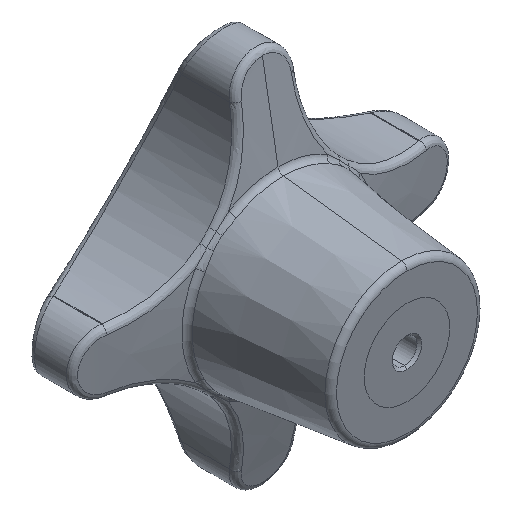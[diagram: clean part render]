
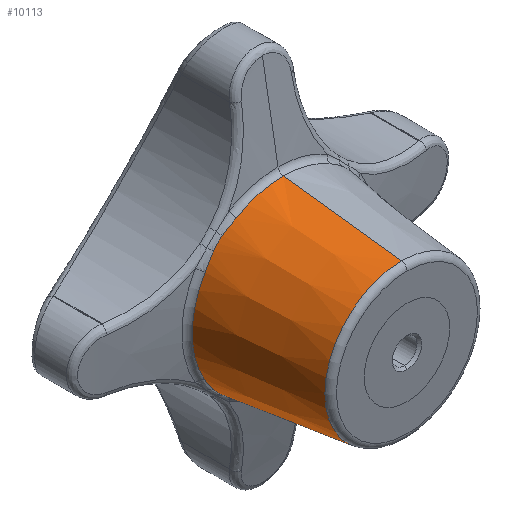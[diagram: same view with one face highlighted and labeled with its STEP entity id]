
A CAD part, isometric view. The second image highlights one B-rep face of the part: STEP entity #10113.
In plain terms, the highlighted conical face has half-angle 7 degrees and reference radius 16 mm.
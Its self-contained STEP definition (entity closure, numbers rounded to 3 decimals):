
#279 = DIRECTION ( 'NONE',  ( 0., 0.993, 0.122 ) ) ;
#280 = VECTOR ( 'NONE', #279, 1000. ) ;
#283 = LINE ( 'NONE', #287, #280 ) ;
#287 = CARTESIAN_POINT ( 'NONE',  ( 0., 0., 16. ) ) ;
#1560 = EDGE_CURVE ( 'NONE', #10138, #1565, #3802, .T. ) ;
#1561 = VERTEX_POINT ( 'NONE', #3727 ) ;
#1563 = VERTEX_POINT ( 'NONE', #3793 ) ;
#1565 = VERTEX_POINT ( 'NONE', #3867 ) ;
#1566 = ORIENTED_EDGE ( 'NONE', *, *, #1569, .T. ) ;
#1568 = ORIENTED_EDGE ( 'NONE', *, *, #1570, .T. ) ;
#1569 = EDGE_CURVE ( 'NONE', #1563, #1561, #3858, .T. ) ;
#1570 = EDGE_CURVE ( 'NONE', #1565, #1563, #3852, .T. ) ;
#1572 = ORIENTED_EDGE ( 'NONE', *, *, #1573, .T. ) ;
#1573 = EDGE_CURVE ( 'NONE', #1561, #7373, #3861, .T. ) ;
#3727 = CARTESIAN_POINT ( 'NONE',  ( -9.847, 26.045, -16.48 ) ) ;
#3793 = CARTESIAN_POINT ( 'NONE',  ( -12.635, 26.268, -14.491 ) ) ;
#3800 = CARTESIAN_POINT ( 'NONE',  ( -16.48, 26.045, -9.847 ) ) ;
#3802 = B_SPLINE_CURVE_WITH_KNOTS ( 'NONE', 3,
 ( #3800, #3870, #3869, #3868 ),
 .UNSPECIFIED., .F., .F.,
 ( 4, 4 ),
 ( 0., 0.003 ),
 .UNSPECIFIED. ) ;
#3843 = DIRECTION ( 'NONE',  ( 0., 0., 1. ) ) ;
#3844 = DIRECTION ( 'NONE',  ( 0., -1., 0. ) ) ;
#3845 = AXIS2_PLACEMENT_3D ( 'NONE', #3862, #3844, #3843 ) ;
#3847 = CARTESIAN_POINT ( 'NONE',  ( -12.635, 26.268, -14.491 ) ) ;
#3848 = CARTESIAN_POINT ( 'NONE',  ( -13.301, 26.326, -13.919 ) ) ;
#3849 = CARTESIAN_POINT ( 'NONE',  ( -13.919, 26.326, -13.301 ) ) ;
#3850 = CARTESIAN_POINT ( 'NONE',  ( -14.491, 26.268, -12.635 ) ) ;
#3852 = B_SPLINE_CURVE_WITH_KNOTS ( 'NONE', 3,
 ( #3850, #3849, #3848, #3847 ),
 .UNSPECIFIED., .F., .F.,
 ( 4, 4 ),
 ( 0., 0.003 ),
 .UNSPECIFIED. ) ;
#3854 = CARTESIAN_POINT ( 'NONE',  ( -9.847, 26.045, -16.48 ) ) ;
#3855 = CARTESIAN_POINT ( 'NONE',  ( -10.834, 26.045, -15.89 ) ) ;
#3856 = CARTESIAN_POINT ( 'NONE',  ( -11.765, 26.193, -15.237 ) ) ;
#3857 = CARTESIAN_POINT ( 'NONE',  ( -12.635, 26.268, -14.491 ) ) ;
#3858 = B_SPLINE_CURVE_WITH_KNOTS ( 'NONE', 3,
 ( #3857, #3856, #3855, #3854 ),
 .UNSPECIFIED., .F., .F.,
 ( 4, 4 ),
 ( 0., 0.003 ),
 .UNSPECIFIED. ) ;
#3861 = CIRCLE ( 'NONE', #3845, 19.198 ) ;
#3862 = CARTESIAN_POINT ( 'NONE',  ( 0., 26.045, 0. ) ) ;
#3867 = CARTESIAN_POINT ( 'NONE',  ( -14.491, 26.268, -12.635 ) ) ;
#3868 = CARTESIAN_POINT ( 'NONE',  ( -14.491, 26.268, -12.635 ) ) ;
#3869 = CARTESIAN_POINT ( 'NONE',  ( -15.237, 26.193, -11.765 ) ) ;
#3870 = CARTESIAN_POINT ( 'NONE',  ( -15.89, 26.045, -10.834 ) ) ;
#6945 = VERTEX_POINT ( 'NONE', #11635 ) ;
#6982 = VERTEX_POINT ( 'NONE', #11650 ) ;
#7002 = VERTEX_POINT ( 'NONE', #11706 ) ;
#7373 = VERTEX_POINT ( 'NONE', #11839 ) ;
#10045 = ORIENTED_EDGE ( 'NONE', *, *, #10112, .T. ) ;
#10066 = EDGE_LOOP ( 'NONE', ( #10118, #10111, #10292, #10045, #10068, #10212, #10216, #10069, #10218, #1568, #1566, #1572 ) ) ;
#10068 = ORIENTED_EDGE ( 'NONE', *, *, #10140, .T. ) ;
#10069 = ORIENTED_EDGE ( 'NONE', *, *, #10219, .T. ) ;
#10070 = VERTEX_POINT ( 'NONE', #11994 ) ;
#10111 = ORIENTED_EDGE ( 'NONE', *, *, #10114, .T. ) ;
#10112 = EDGE_CURVE ( 'NONE', #7002, #10070, #12023, .T. ) ;
#10113 = ADVANCED_FACE ( 'NONE', ( #11989 ), #12067, .T. ) ;
#10114 = EDGE_CURVE ( 'NONE', #6982, #6945, #12124, .T. ) ;
#10118 = ORIENTED_EDGE ( 'NONE', *, *, #11149, .F. ) ;
#10138 = VERTEX_POINT ( 'NONE', #12121 ) ;
#10139 = VERTEX_POINT ( 'NONE', #12110 ) ;
#10140 = EDGE_CURVE ( 'NONE', #10070, #10213, #12107, .T. ) ;
#10175 = EDGE_CURVE ( 'NONE', #10214, #10139, #12152, .T. ) ;
#10212 = ORIENTED_EDGE ( 'NONE', *, *, #10235, .T. ) ;
#10213 = VERTEX_POINT ( 'NONE', #12171 ) ;
#10214 = VERTEX_POINT ( 'NONE', #12178 ) ;
#10216 = ORIENTED_EDGE ( 'NONE', *, *, #10175, .T. ) ;
#10218 = ORIENTED_EDGE ( 'NONE', *, *, #1560, .T. ) ;
#10219 = EDGE_CURVE ( 'NONE', #10139, #10138, #12166, .T. ) ;
#10235 = EDGE_CURVE ( 'NONE', #10213, #10214, #12220, .T. ) ;
#10292 = ORIENTED_EDGE ( 'NONE', *, *, #11197, .T. ) ;
#11149 = EDGE_CURVE ( 'NONE', #6982, #7373, #14526, .T. ) ;
#11197 = EDGE_CURVE ( 'NONE', #6945, #7002, #283, .T. ) ;
#11635 = CARTESIAN_POINT ( 'NONE',  ( 0., 1.142, 16.14 ) ) ;
#11650 = CARTESIAN_POINT ( 'NONE',  ( 0., 1.142, -16.14 ) ) ;
#11706 = CARTESIAN_POINT ( 'NONE',  ( 0., 26.045, 19.198 ) ) ;
#11839 = CARTESIAN_POINT ( 'NONE',  ( 0., 26.045, -19.198 ) ) ;
#11989 = FACE_OUTER_BOUND ( 'NONE', #10066, .T. ) ;
#11994 = CARTESIAN_POINT ( 'NONE',  ( -9.847, 26.045, 16.48 ) ) ;
#12023 = CIRCLE ( 'NONE', #12098, 19.198 ) ;
#12064 = DIRECTION ( 'NONE',  ( 0., 0., 1. ) ) ;
#12065 = DIRECTION ( 'NONE',  ( 0., -1., 0. ) ) ;
#12066 = CARTESIAN_POINT ( 'NONE',  ( 0., 26.045, 0. ) ) ;
#12067 = CONICAL_SURFACE ( 'NONE', #12125, 16., 0.122 ) ;
#12069 = DIRECTION ( 'NONE',  ( 0., 1., 0. ) ) ;
#12070 = CARTESIAN_POINT ( 'NONE',  ( 0., 0., 0. ) ) ;
#12098 = AXIS2_PLACEMENT_3D ( 'NONE', #12066, #12065, #12064 ) ;
#12099 = CARTESIAN_POINT ( 'NONE',  ( -12.635, 26.268, 14.491 ) ) ;
#12100 = CARTESIAN_POINT ( 'NONE',  ( -11.765, 26.193, 15.237 ) ) ;
#12101 = CARTESIAN_POINT ( 'NONE',  ( -10.834, 26.045, 15.89 ) ) ;
#12102 = CARTESIAN_POINT ( 'NONE',  ( -9.847, 26.045, 16.48 ) ) ;
#12107 = B_SPLINE_CURVE_WITH_KNOTS ( 'NONE', 3,
 ( #12102, #12101, #12100, #12099 ),
 .UNSPECIFIED., .F., .F.,
 ( 4, 4 ),
 ( 0., 0.003 ),
 .UNSPECIFIED. ) ;
#12110 = CARTESIAN_POINT ( 'NONE',  ( -16.48, 26.045, 9.847 ) ) ;
#12116 = DIRECTION ( 'NONE',  ( 0., 0., -1. ) ) ;
#12117 = DIRECTION ( 'NONE',  ( 0., 1., 0. ) ) ;
#12118 = CARTESIAN_POINT ( 'NONE',  ( 0., 1.142, 0. ) ) ;
#12119 = AXIS2_PLACEMENT_3D ( 'NONE', #12118, #12117, #12116 ) ;
#12121 = CARTESIAN_POINT ( 'NONE',  ( -16.48, 26.045, -9.847 ) ) ;
#12123 = DIRECTION ( 'NONE',  ( 0., 0., 1. ) ) ;
#12124 = CIRCLE ( 'NONE', #12119, 16.14 ) ;
#12125 = AXIS2_PLACEMENT_3D ( 'NONE', #12070, #12069, #12123 ) ;
#12144 = CARTESIAN_POINT ( 'NONE',  ( -16.48, 26.045, 9.847 ) ) ;
#12145 = CARTESIAN_POINT ( 'NONE',  ( -15.89, 26.045, 10.834 ) ) ;
#12146 = CARTESIAN_POINT ( 'NONE',  ( -15.237, 26.193, 11.765 ) ) ;
#12147 = CARTESIAN_POINT ( 'NONE',  ( -14.491, 26.268, 12.635 ) ) ;
#12152 = B_SPLINE_CURVE_WITH_KNOTS ( 'NONE', 3,
 ( #12147, #12146, #12145, #12144 ),
 .UNSPECIFIED., .F., .F.,
 ( 4, 4 ),
 ( 0., 0.003 ),
 .UNSPECIFIED. ) ;
#12161 = DIRECTION ( 'NONE',  ( 0., 0., 1. ) ) ;
#12162 = DIRECTION ( 'NONE',  ( 0., -1., 0. ) ) ;
#12163 = AXIS2_PLACEMENT_3D ( 'NONE', #12180, #12162, #12161 ) ;
#12166 = CIRCLE ( 'NONE', #12163, 19.198 ) ;
#12171 = CARTESIAN_POINT ( 'NONE',  ( -12.635, 26.268, 14.491 ) ) ;
#12178 = CARTESIAN_POINT ( 'NONE',  ( -14.491, 26.268, 12.635 ) ) ;
#12180 = CARTESIAN_POINT ( 'NONE',  ( 0., 26.045, 0. ) ) ;
#12214 = CARTESIAN_POINT ( 'NONE',  ( -14.491, 26.268, 12.635 ) ) ;
#12215 = CARTESIAN_POINT ( 'NONE',  ( -13.919, 26.326, 13.301 ) ) ;
#12216 = CARTESIAN_POINT ( 'NONE',  ( -13.301, 26.326, 13.919 ) ) ;
#12217 = CARTESIAN_POINT ( 'NONE',  ( -12.635, 26.268, 14.491 ) ) ;
#12220 = B_SPLINE_CURVE_WITH_KNOTS ( 'NONE', 3,
 ( #12217, #12216, #12215, #12214 ),
 .UNSPECIFIED., .F., .F.,
 ( 4, 4 ),
 ( 0., 0.003 ),
 .UNSPECIFIED. ) ;
#14525 = CARTESIAN_POINT ( 'NONE',  ( 0., 0., -16. ) ) ;
#14526 = LINE ( 'NONE', #14525, #14596 ) ;
#14595 = DIRECTION ( 'NONE',  ( 0., 0.993, -0.122 ) ) ;
#14596 = VECTOR ( 'NONE', #14595, 1000. ) ;
